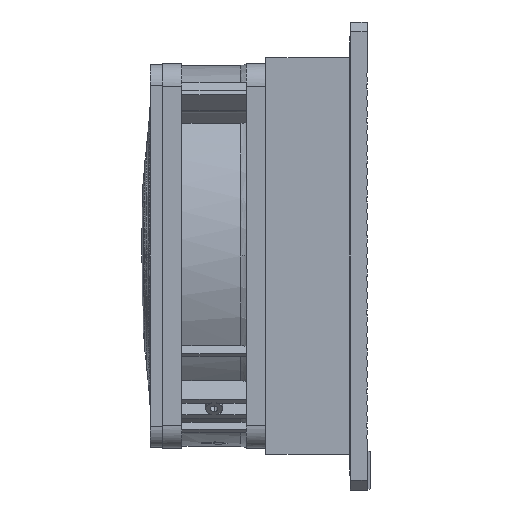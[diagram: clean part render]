
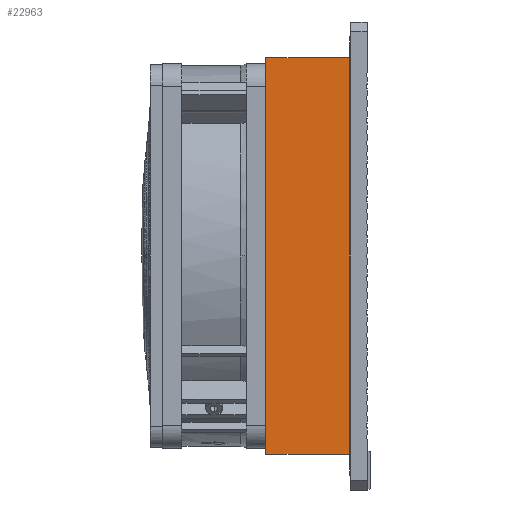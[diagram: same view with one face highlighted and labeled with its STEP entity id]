
A CAD part, left-side view. The second image highlights one B-rep face of the part: STEP entity #22963.
In plain terms, the highlighted planar face has unit normal (-1, 0, 0).
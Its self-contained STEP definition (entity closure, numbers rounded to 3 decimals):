
#21998 = ORIENTED_EDGE ( 'NONE', *, *, #23732, .F. ) ;
#22773 = ORIENTED_EDGE ( 'NONE', *, *, #22973, .F. ) ;
#22846 = EDGE_LOOP ( 'NONE', ( #22773, #22969, #21998, #22989 ) ) ;
#22915 = VERTEX_POINT ( 'NONE', #89836 ) ;
#22946 = VERTEX_POINT ( 'NONE', #89858 ) ;
#22963 = ADVANCED_FACE ( 'NONE', ( #89887 ), #89899, .T. ) ;
#22969 = ORIENTED_EDGE ( 'NONE', *, *, #22972, .F. ) ;
#22972 = EDGE_CURVE ( 'NONE', #22946, #22974, #89921, .T. ) ;
#22973 = EDGE_CURVE ( 'NONE', #22974, #22915, #89917, .T. ) ;
#22974 = VERTEX_POINT ( 'NONE', #89923 ) ;
#22989 = ORIENTED_EDGE ( 'NONE', *, *, #23031, .F. ) ;
#23031 = EDGE_CURVE ( 'NONE', #22915, #23729, #90199, .T. ) ;
#23729 = VERTEX_POINT ( 'NONE', #92694 ) ;
#23732 = EDGE_CURVE ( 'NONE', #23729, #22946, #92739, .T. ) ;
#89836 = CARTESIAN_POINT ( 'NONE',  ( -61.5, 29.25, -61.5 ) ) ;
#89858 = CARTESIAN_POINT ( 'NONE',  ( -61.5, 2., 61.5 ) ) ;
#89876 = DIRECTION ( 'NONE',  ( -1., 0., 0. ) ) ;
#89884 = AXIS2_PLACEMENT_3D ( 'NONE', #89891, #89876, #89898 ) ;
#89887 = FACE_OUTER_BOUND ( 'NONE', #22846, .T. ) ;
#89891 = CARTESIAN_POINT ( 'NONE',  ( -61.5, -197.99, -61.5 ) ) ;
#89898 = DIRECTION ( 'NONE',  ( 0., 0., 1. ) ) ;
#89899 = PLANE ( 'NONE',  #89884 ) ;
#89914 = DIRECTION ( 'NONE',  ( 0., 1., 0. ) ) ;
#89915 = VECTOR ( 'NONE', #89914, 1000. ) ;
#89916 = CARTESIAN_POINT ( 'NONE',  ( -61.5, -197.99, -61.5 ) ) ;
#89917 = LINE ( 'NONE', #89916, #89915 ) ;
#89918 = DIRECTION ( 'NONE',  ( 0., 0., -1. ) ) ;
#89919 = VECTOR ( 'NONE', #89918, 1000. ) ;
#89920 = CARTESIAN_POINT ( 'NONE',  ( -61.5, 2., 70. ) ) ;
#89921 = LINE ( 'NONE', #89920, #89919 ) ;
#89923 = CARTESIAN_POINT ( 'NONE',  ( -61.5, 2., -61.5 ) ) ;
#90158 = DIRECTION ( 'NONE',  ( 0., 0., 1. ) ) ;
#90159 = VECTOR ( 'NONE', #90158, 1000. ) ;
#90197 = CARTESIAN_POINT ( 'NONE',  ( -61.5, 29.25, 70. ) ) ;
#90199 = LINE ( 'NONE', #90197, #90159 ) ;
#92682 = CARTESIAN_POINT ( 'NONE',  ( -61.5, -197.99, 61.5 ) ) ;
#92694 = CARTESIAN_POINT ( 'NONE',  ( -61.5, 29.25, 61.5 ) ) ;
#92737 = DIRECTION ( 'NONE',  ( 0., -1., 0. ) ) ;
#92738 = VECTOR ( 'NONE', #92737, 1000. ) ;
#92739 = LINE ( 'NONE', #92682, #92738 ) ;
